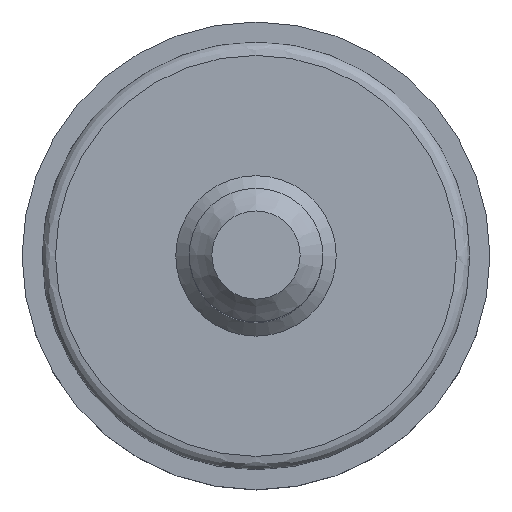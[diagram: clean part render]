
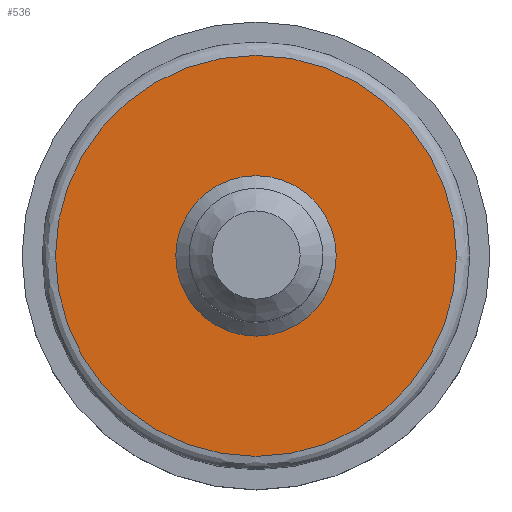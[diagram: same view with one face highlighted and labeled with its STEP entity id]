
A CAD part, top view. The second image highlights one B-rep face of the part: STEP entity #536.
In plain terms, the highlighted planar face has unit normal (0, 0, 1).
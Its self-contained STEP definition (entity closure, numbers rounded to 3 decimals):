
#511=CARTESIAN_POINT('',(1279.186,955.47,9.0));
#512=DIRECTION('',(0.0,0.0,1.0));
#513=DIRECTION('',(1.0,0.0,0.0));
#514=AXIS2_PLACEMENT_3D('',#511,#512,#513);
#515=PLANE('',#514);
#516=CARTESIAN_POINT('',(1313.386,974.67,9.0));
#517=VERTEX_POINT('',#516);
#518=CARTESIAN_POINT('',(1283.386,974.67,9.0));
#519=VERTEX_POINT('',#518);
#520=CARTESIAN_POINT('',(1298.386,974.67,9.0));
#521=DIRECTION('',(0.0,0.0,1.0));
#522=DIRECTION('',(1.0,0.0,0.0));
#523=AXIS2_PLACEMENT_3D('',#520,#521,#522);
#524=CIRCLE('',#523,15.0);
#525=EDGE_CURVE('',#517,#519,#524,.T.);
#526=ORIENTED_EDGE('',*,*,#525,.T.);
#527=CARTESIAN_POINT('',(1298.386,974.67,9.0));
#528=DIRECTION('',(0.0,0.0,1.0));
#529=DIRECTION('',(1.0,0.0,0.0));
#530=AXIS2_PLACEMENT_3D('',#527,#528,#529);
#531=CIRCLE('',#530,15.0);
#532=EDGE_CURVE('',#519,#517,#531,.T.);
#533=ORIENTED_EDGE('',*,*,#532,.T.);
#534=EDGE_LOOP('',(#526,#533));
#535=FACE_OUTER_BOUND('',#534,.T.);
#536=ADVANCED_FACE('',(#535),#515,.T.);
